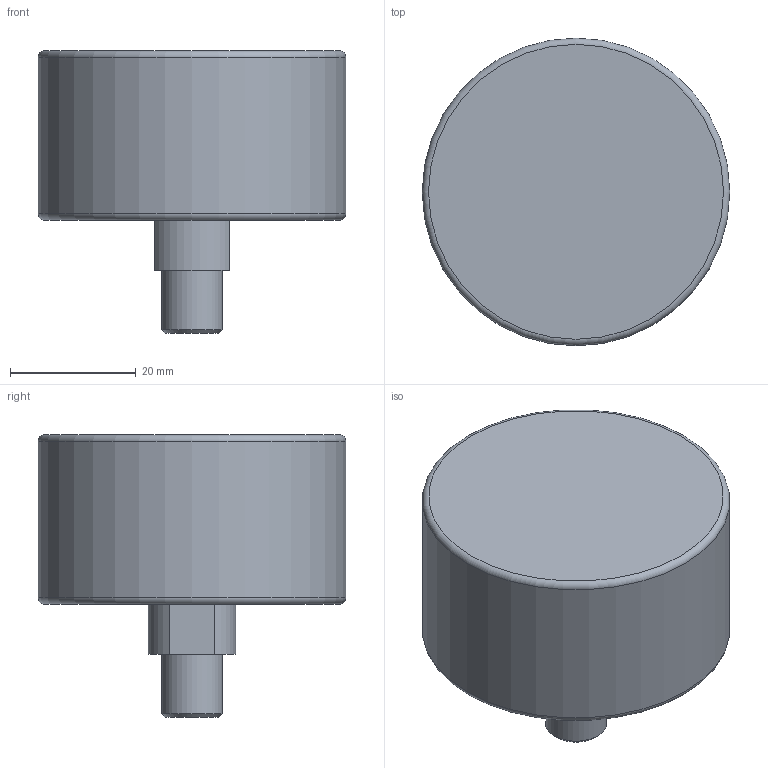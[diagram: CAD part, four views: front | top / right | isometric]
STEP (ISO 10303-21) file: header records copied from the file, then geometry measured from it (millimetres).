
FILE_DESCRIPTION( ( 'STEP AP214' ), '1' );
FILE_NAME( 'p:/temp/worker_208/temp/exporttempdir_2948_4_OOc7l/format_1/17070BA.stp', '2021-02-05T12:29:29', ( 'License CC BY-ND 4.0' ), ( 'CADENAS' ), ' ', 'PARTsolutions', ' ' );
FILE_SCHEMA( ( 'AUTOMOTIVE_DESIGN { 1 0 10303 214 1 1 1 1 }' ) );
Length unit declared in the file: millimetre
Products named in the file (1): _17070BA
Bounding box: 49 x 49 x 45 mm (x, y, z)
Volume: 52741.3 mm3; surface area: 8435.6 mm2
Topology: 1 solids, 1 shells, 13 faces, 24 edges, 15 vertices
Faces by surface type: plane 6, cylinder 4, torus 2, cone 1
Full cylindrical faces by diameter (mm): 9.728 x1, 49 x1
Entity records: 420 total; most frequent: DIRECTION 58, CARTESIAN_POINT 48, ORIENTED_EDGE 38, AXIS2_PLACEMENT_3D 25, EDGE_LOOP 20, EDGE_CURVE 19, FACE_OUTER_BOUND 17, VERTEX_POINT 15
